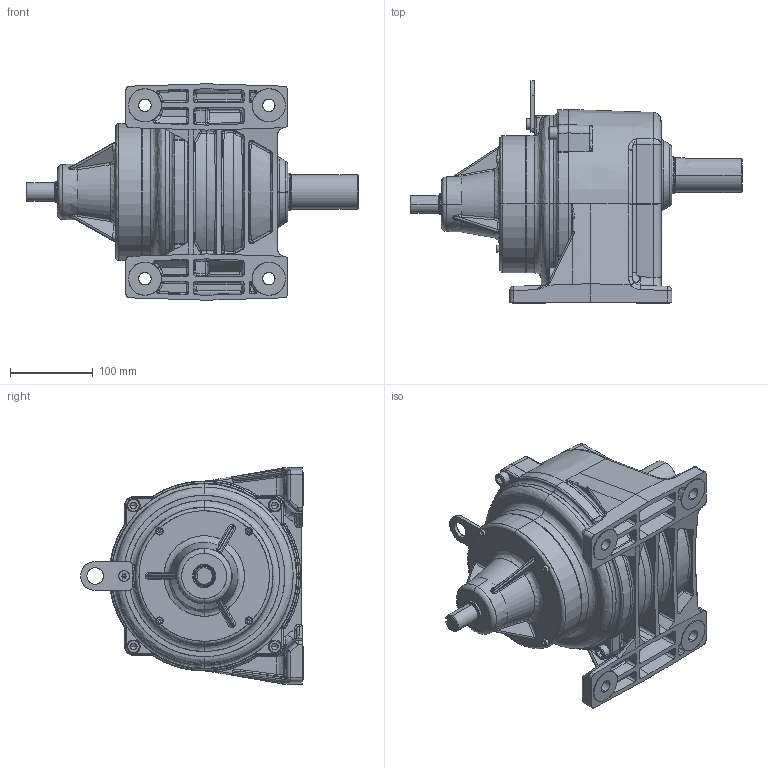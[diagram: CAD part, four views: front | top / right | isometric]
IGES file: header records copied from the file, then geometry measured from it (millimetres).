
Start section: SolidWorks IGES file using analytic representation for surfaces
Bounding box: 402 x 269.5 x 262 mm (x, y, z)
Surface area: 496749 mm2 (no closed solid volume)
Topology: 0 solids, 0 shells, 1097 faces, 13622 edges, 13588 vertices
Faces by surface type: bspline 689, revolution 408
